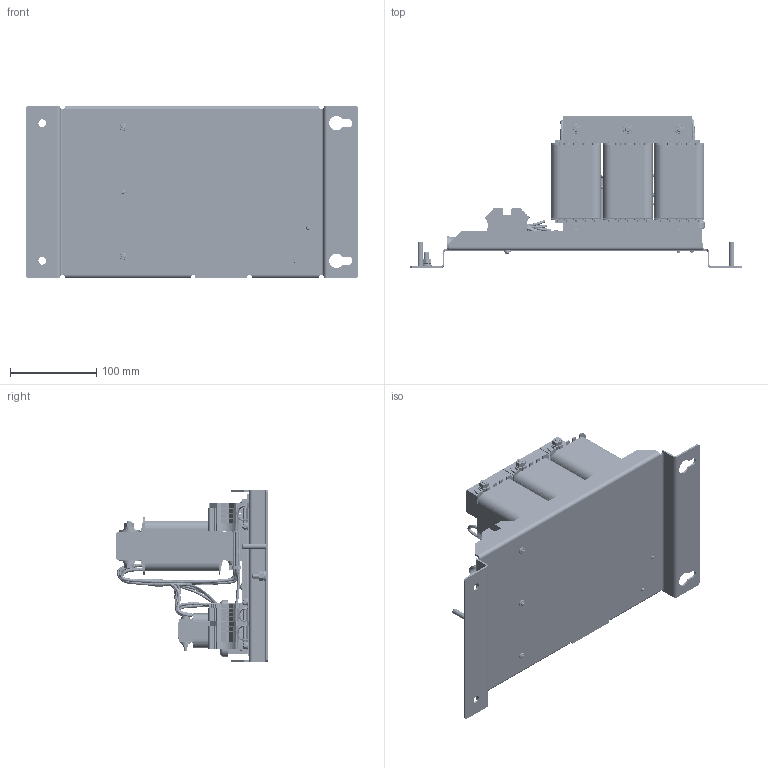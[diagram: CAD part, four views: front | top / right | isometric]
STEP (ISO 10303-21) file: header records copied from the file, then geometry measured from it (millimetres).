
FILE_DESCRIPTION((''),'2;1');
FILE_NAME('8A','2015-05-29T',('ED0010'),(''),'PRO/ENGINEER BY PARAMETRIC TECHNOLOGY CORPORATION, 2009360','PRO/ENGINEER BY PARAMETRIC TECHNOLOGY CORPORATION, 2009360','');
FILE_SCHEMA(('CONFIG_CONTROL_DESIGN'));
Products named in the file (1): 8A
Bounding box: 386 x 176.2 x 200 mm (x, y, z)
Surface area: 860587.7 mm2 (no closed solid volume)
Topology: 0 solids, 283 shells, 9729 faces, 25189 edges, 16178 vertices
Faces by surface type: plane 5413, cylinder 3082, cone 588, bspline 320, sphere 166, torus 160
Entity records: 327696 total; most frequent: CARTESIAN_POINT 87448, ORIENTED_EDGE 50318, DIRECTION 49961, EDGE_CURVE 25159, AXIS2_PLACEMENT_3D 16841, VECTOR 16279, LINE 16279, VERTEX_POINT 16178
